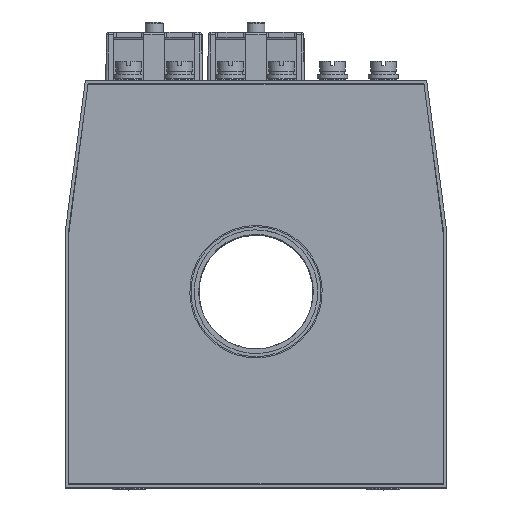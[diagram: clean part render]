
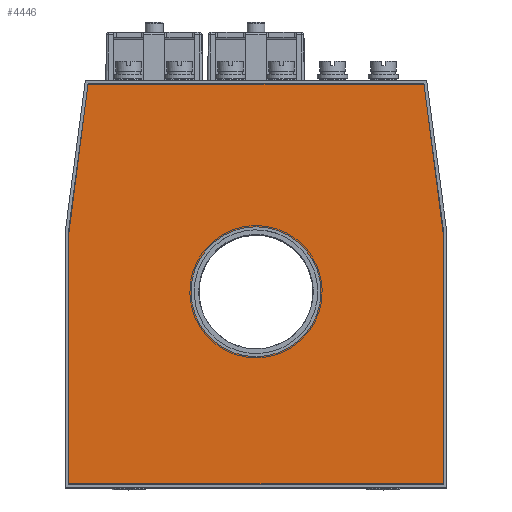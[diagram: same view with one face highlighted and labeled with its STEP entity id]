
A CAD part, top view. The second image highlights one B-rep face of the part: STEP entity #4446.
In plain terms, the highlighted planar face has unit normal (0, 0, 1).
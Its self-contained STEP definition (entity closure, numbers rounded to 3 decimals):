
#4446=ADVANCED_FACE('',(#7927,#7929),#7931,.T.);
#7927=FACE_BOUND('',#7928,.T.);
#7928=EDGE_LOOP('',(#9352,#9353,#9354,#9355,#9356,#9357));
#7929=FACE_BOUND('',#7930,.T.);
#7930=EDGE_LOOP('',(#9358));
#7931=PLANE('',#7932);
#7932=AXIS2_PLACEMENT_3D('',#7933,#7934,#7935);
#7933=CARTESIAN_POINT('',(0.,0.,5.));
#7934=DIRECTION('',(0.,0.,1.));
#7935=DIRECTION('',(1.,0.,0.));
#9352=ORIENTED_EDGE('',*,*,#10071,.T.);
#9353=ORIENTED_EDGE('',*,*,#10072,.T.);
#9354=ORIENTED_EDGE('',*,*,#10073,.T.);
#9355=ORIENTED_EDGE('',*,*,#10074,.T.);
#9356=ORIENTED_EDGE('',*,*,#10075,.T.);
#9357=ORIENTED_EDGE('',*,*,#10076,.T.);
#9358=ORIENTED_EDGE('',*,*,#10077,.T.);
#10071=EDGE_CURVE('',#11256,#11257,#11258,.T.);
#10072=EDGE_CURVE('',#11257,#11259,#11260,.T.);
#10073=EDGE_CURVE('',#11259,#11261,#11262,.T.);
#10074=EDGE_CURVE('',#11261,#11263,#11264,.T.);
#10075=EDGE_CURVE('',#11263,#11265,#11266,.T.);
#10076=EDGE_CURVE('',#11265,#11256,#11267,.T.);
#10077=EDGE_CURVE('',#11268,#11268,#11269,.F.);
#11256=VERTEX_POINT('',#14294);
#11257=VERTEX_POINT('',#14295);
#11258=LINE('',#14296,#14297);
#11259=VERTEX_POINT('',#14299);
#11260=LINE('',#14300,#14301);
#11261=VERTEX_POINT('',#14303);
#11262=LINE('',#14304,#14305);
#11263=VERTEX_POINT('',#14307);
#11264=LINE('',#14308,#14309);
#11265=VERTEX_POINT('',#14311);
#11266=LINE('',#14312,#14313);
#11267=LINE('',#14315,#14316);
#11268=VERTEX_POINT('',#14318);
#11269=CIRCLE('',#14319,25.5);
#14294=CARTESIAN_POINT('',(-73.5,19.815,5.));
#14295=CARTESIAN_POINT('',(-73.5,-78.5,5.));
#14296=CARTESIAN_POINT('',(-73.5,19.815,5.));
#14297=VECTOR('',#14298,1.);
#14298=DIRECTION('',(0.,-1.,0.));
#14299=CARTESIAN_POINT('',(73.5,-78.5,5.));
#14300=CARTESIAN_POINT('',(-73.5,-78.5,5.));
#14301=VECTOR('',#14302,1.);
#14302=DIRECTION('',(1.,0.,0.));
#14303=CARTESIAN_POINT('',(73.5,19.815,5.));
#14304=CARTESIAN_POINT('',(73.5,-78.5,5.));
#14305=VECTOR('',#14306,1.);
#14306=DIRECTION('',(0.,1.,0.));
#14307=CARTESIAN_POINT('',(66.,78.5,5.));
#14308=CARTESIAN_POINT('',(73.5,19.815,5.));
#14309=VECTOR('',#14310,1.);
#14310=DIRECTION('',(-0.127,0.992,0.));
#14311=CARTESIAN_POINT('',(-66.,78.5,5.));
#14312=CARTESIAN_POINT('',(66.,78.5,5.));
#14313=VECTOR('',#14314,1.);
#14314=DIRECTION('',(-1.,0.,0.));
#14315=CARTESIAN_POINT('',(-66.,78.5,5.));
#14316=VECTOR('',#14317,1.);
#14317=DIRECTION('',(-0.127,-0.992,0.));
#14318=CARTESIAN_POINT('',(25.5,-3.,5.));
#14319=AXIS2_PLACEMENT_3D('',#14320,#14321,#14322);
#14320=CARTESIAN_POINT('',(0.,-3.,5.));
#14321=DIRECTION('',(0.,0.,1.));
#14322=DIRECTION('',(1.,0.,0.));
